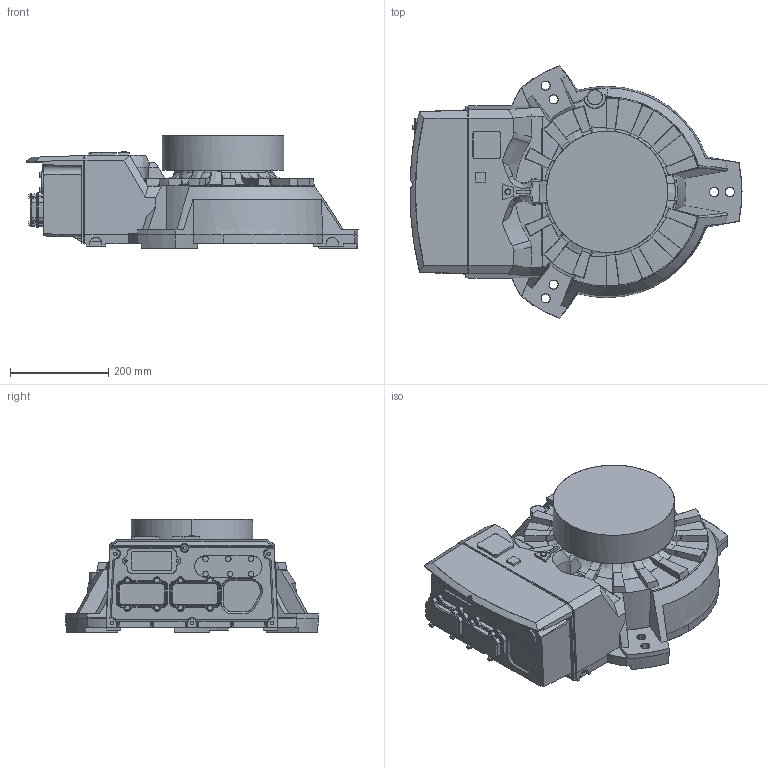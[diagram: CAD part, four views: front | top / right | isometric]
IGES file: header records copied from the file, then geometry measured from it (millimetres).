
Start section: SolidWorks IGES file using analytic representation for surfaces
Global section: file name: C:\Data\Lättmodeller\Nytt\2600\IRB2600\IRB2600_20-165_IRC5_rev00\IRB2600_20-165_IRC5_rev00_IRC5_IGES_j\IRB2600_20-165_BASE_CAD_rev02.IGS; native system: SolidWorks 2014; preprocessor: SolidWorks 2014; author: seadbov; date: 161202.125259; units: millimetre
Bounding box: 675.45 x 514.54 x 230 mm (x, y, z)
Surface area: 938302 mm2 (no closed solid volume)
Topology: 0 solids, 0 shells, 999 faces, 11390 edges, 11387 vertices
Faces by surface type: bspline 610, revolution 389
